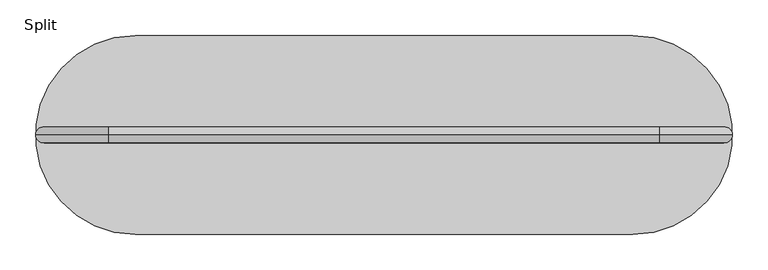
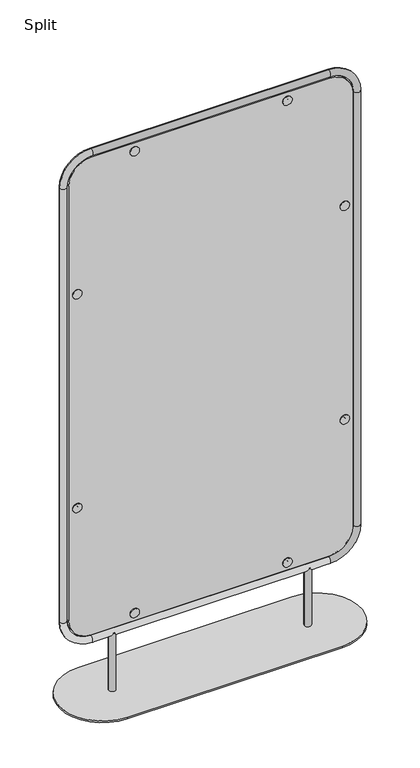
"""IFC4 building model written with IfcOpenShell, lengths in millimetres: furniture geometry, Acoustic-Panels_Slalom_Split_Metric : Split."""

from ifc_helpers import new_model, si_unit, point, frame, frame_2d, origin, origin_with_axes, place, context, project, spatial, polyline, circle_curve, ellipse_curve, trimmed, segment, composite_curve, outline, extrude, source, transform, mapped, element, save
from ifc_brep_helpers import plane_surface, cylinder_surface, revolved_surface, advanced_brep


def split_e62d9c19(model_context):
    return source(origin(), model_context, "Body", "SolidModel", [
        extrude(outline(composite_curve([segment(trimmed(circle_curve(frame_2d((1793.5437635, -389.0)), 74.0), [point((1867.5437635, -389.0))], [point((1793.5437635, -463.0))], False, "CARTESIAN"), True, "CONTINUOUS"), segment(polyline([(1793.5437635, -463.0), (295.5437635, -463.0)]), True, "CONTINUOUS"), segment(trimmed(circle_curve(frame_2d((295.5437635, -389.0)), 74.0), [point((295.5437635, -463.0))], [point((221.5437635, -389.0))], False, "CARTESIAN"), True, "CONTINUOUS"), segment(polyline([(221.5437635, -389.0), (221.5437635, 389.0)]), True, "CONTINUOUS"), segment(trimmed(circle_curve(frame_2d((295.5437635, 389.0)), 74.0), [point((221.5437635, 389.0))], [point((295.5437635, 463.0))], False, "CARTESIAN"), True, "CONTINUOUS"), segment(polyline([(295.5437635, 463.0), (1793.5437635, 463.0)]), True, "CONTINUOUS"), segment(trimmed(circle_curve(frame_2d((1793.5437635, 389.0)), 74.0), [point((1793.5437635, 463.0))], [point((1867.5437635, 389.0))], False, "CARTESIAN"), True, "CONTINUOUS"), segment(polyline([(1867.5437635, 389.0), (1867.5437635, -389.0)]), True, "CONTINUOUS")], self_intersect=False)), frame((0.0, -4.0, 0.0), z_axis=(0.0, 1.0, 0.0), x_axis=(0.0, 0.0, 1.0)), (0.0, 0.0, 1.0), 8.0),
        advanced_brep(
        [(-252.9999704, 4.0, 1840.7968129), (-244.9999704, 4.0, 1840.7968129), (-244.9999704, -4.0, 1840.7968129), (-252.9999704, -4.0, 1840.7968129), (-263.9999704, -7.0, 1840.7968129), (-233.9999704, -7.0, 1840.7968129), (-263.9999704, -4.0, 1840.7968129), (-233.9999704, -4.0, 1840.7968129)],
        [
            (0, 1, circle_curve(frame((-248.9999704, 4.0, 1840.7968129), z_axis=(0.0, 1.0, 0.0), x_axis=(1.0, 0.0, 0.0)), 4.0)),
            (1, 0, circle_curve(frame((-248.9999704, 4.0, 1840.7968129), z_axis=(0.0, 1.0, 0.0), x_axis=(1.0, 0.0, 0.0)), 4.0)),
            (1, 2),
            (2, 3, circle_curve(frame((-248.9999704, -4.0, 1840.7968129), z_axis=(0.0, 1.0, 0.0), x_axis=(1.0, 0.0, 0.0)), 4.0)),
            (3, 0),
            (3, 2, circle_curve(frame((-248.9999704, -4.0, 1840.7968129), z_axis=(0.0, 1.0, 0.0), x_axis=(1.0, 0.0, 0.0)), 4.0)),
            (4, 5, circle_curve(frame((-248.9999704, -7.0, 1840.7968129), z_axis=(0.0, -1.0, 0.0), x_axis=(1.0, 0.0, 0.0)), 15.0)),
            (5, 4, circle_curve(frame((-248.9999704, -7.0, 1840.7968129), z_axis=(0.0, -1.0, 0.0), x_axis=(1.0, 0.0, 0.0)), 15.0)),
            (6, 7, circle_curve(frame((-248.9999704, -4.0, 1840.7968129), z_axis=(0.0, 1.0, 0.0), x_axis=(1.0, 0.0, 0.0)), 15.0)),
            (7, 6, circle_curve(frame((-248.9999704, -4.0, 1840.7968129), z_axis=(0.0, 1.0, 0.0), x_axis=(1.0, 0.0, 0.0)), 15.0)),
            (4, 6),
            (7, 5),
        ],
        [
            plane_surface(frame((-244.9999704, 4.0, 1840.7968129), z_axis=(0.0, 1.0, 0.0), x_axis=(0.0, 0.0, -1.0))),
            cylinder_surface(frame((-248.9999704, 4.0, 1840.7968129), z_axis=(0.0, -1.0, 0.0), x_axis=(1.0, 0.0, 0.0)), 4.0),
            plane_surface(frame((-233.9999704, -7.0, 1840.7968129), z_axis=(0.0, -1.0, 0.0), x_axis=(0.0, 0.0, 1.0))),
            plane_surface(frame((-233.9999704, -4.0, 1840.7968129), z_axis=(0.0, 1.0, 0.0), x_axis=(0.0, 0.0, -1.0))),
            cylinder_surface(frame((-248.9999704, -4.0, 1840.7968129), z_axis=(0.0, -1.0, 0.0), x_axis=(1.0, 0.0, 0.0)), 15.0),
        ],
        [
            (0, [[1, 2]]),
            (1, [[-2, 3, 4, 5]]),
            (1, [[-1, -5, 6, -3]]),
            (2, [[7, 8]]),
            (3, [[9, 10], [-4, -6]]),
            (4, [[-7, 11, -10, 12]]),
            (4, [[-8, -12, -9, -11]]),
        ],
    ),
        advanced_brep(
        [(244.9999704, 4.0, 1840.7968129), (252.9999704, 4.0, 1840.7968129), (252.9999704, -4.0, 1840.7968129), (244.9999704, -4.0, 1840.7968129), (233.9999704, -7.0, 1840.7968129), (263.9999704, -7.0, 1840.7968129), (233.9999704, -4.0, 1840.7968129), (263.9999704, -4.0, 1840.7968129)],
        [
            (0, 1, circle_curve(frame((248.9999704, 4.0, 1840.7968129), z_axis=(0.0, 1.0, 0.0), x_axis=(1.0, 0.0, 0.0)), 4.0)),
            (1, 0, circle_curve(frame((248.9999704, 4.0, 1840.7968129), z_axis=(0.0, 1.0, 0.0), x_axis=(1.0, 0.0, 0.0)), 4.0)),
            (1, 2),
            (2, 3, circle_curve(frame((248.9999704, -4.0, 1840.7968129), z_axis=(0.0, 1.0, 0.0), x_axis=(1.0, 0.0, 0.0)), 4.0)),
            (3, 0),
            (3, 2, circle_curve(frame((248.9999704, -4.0, 1840.7968129), z_axis=(0.0, 1.0, 0.0), x_axis=(1.0, 0.0, 0.0)), 4.0)),
            (4, 5, circle_curve(frame((248.9999704, -7.0, 1840.7968129), z_axis=(0.0, -1.0, 0.0), x_axis=(1.0, 0.0, 0.0)), 15.0)),
            (5, 4, circle_curve(frame((248.9999704, -7.0, 1840.7968129), z_axis=(0.0, -1.0, 0.0), x_axis=(1.0, 0.0, 0.0)), 15.0)),
            (6, 7, circle_curve(frame((248.9999704, -4.0, 1840.7968129), z_axis=(0.0, 1.0, 0.0), x_axis=(1.0, 0.0, 0.0)), 15.0)),
            (7, 6, circle_curve(frame((248.9999704, -4.0, 1840.7968129), z_axis=(0.0, 1.0, 0.0), x_axis=(1.0, 0.0, 0.0)), 15.0)),
            (4, 6),
            (7, 5),
        ],
        [
            plane_surface(frame((-244.9999704, 4.0, 1840.7968129), z_axis=(0.0, 1.0, 0.0), x_axis=(0.0, 0.0, -1.0))),
            cylinder_surface(frame((248.9999704, 0.0, 1840.7968129), z_axis=(0.0, -1.0, 0.0), x_axis=(1.0, 0.0, 0.0)), 4.0),
            plane_surface(frame((-233.9999704, -7.0, 1840.7968129), z_axis=(0.0, -1.0, 0.0), x_axis=(0.0, 0.0, 1.0))),
            plane_surface(frame((-233.9999704, -4.0, 1840.7968129), z_axis=(0.0, 1.0, 0.0), x_axis=(0.0, 0.0, -1.0))),
            cylinder_surface(frame((248.9999704, 0.0, 1840.7968129), z_axis=(0.0, -1.0, 0.0), x_axis=(1.0, 0.0, 0.0)), 15.0),
        ],
        [
            (0, [[1, 2]]),
            (1, [[-2, 3, 4, 5]]),
            (1, [[-1, -5, 6, -3]]),
            (2, [[7, 8]]),
            (3, [[9, 10], [-4, -6]]),
            (4, [[-7, 11, -10, 12]]),
            (4, [[-8, -12, -9, -11]]),
        ],
    ),
        advanced_brep(
        [(-252.9999704, 4.0, 248.290714), (-244.9999704, 4.0, 248.290714), (-244.9999704, -4.0, 248.290714), (-252.9999704, -4.0, 248.290714), (-263.9999704, -7.0, 248.290714), (-233.9999704, -7.0, 248.290714), (-263.9999704, -4.0, 248.290714), (-233.9999704, -4.0, 248.290714)],
        [
            (0, 1, circle_curve(frame((-248.9999704, 4.0, 248.290714), z_axis=(0.0, 1.0, 0.0), x_axis=(1.0, 0.0, 0.0)), 4.0)),
            (1, 0, circle_curve(frame((-248.9999704, 4.0, 248.290714), z_axis=(0.0, 1.0, 0.0), x_axis=(1.0, 0.0, 0.0)), 4.0)),
            (1, 2),
            (2, 3, circle_curve(frame((-248.9999704, -4.0, 248.290714), z_axis=(0.0, 1.0, 0.0), x_axis=(1.0, 0.0, 0.0)), 4.0)),
            (3, 0),
            (3, 2, circle_curve(frame((-248.9999704, -4.0, 248.290714), z_axis=(0.0, 1.0, 0.0), x_axis=(1.0, 0.0, 0.0)), 4.0)),
            (4, 5, circle_curve(frame((-248.9999704, -7.0, 248.290714), z_axis=(0.0, -1.0, 0.0), x_axis=(1.0, 0.0, 0.0)), 15.0)),
            (5, 4, circle_curve(frame((-248.9999704, -7.0, 248.290714), z_axis=(0.0, -1.0, 0.0), x_axis=(1.0, 0.0, 0.0)), 15.0)),
            (6, 7, circle_curve(frame((-248.9999704, -4.0, 248.290714), z_axis=(0.0, 1.0, 0.0), x_axis=(1.0, 0.0, 0.0)), 15.0)),
            (7, 6, circle_curve(frame((-248.9999704, -4.0, 248.290714), z_axis=(0.0, 1.0, 0.0), x_axis=(1.0, 0.0, 0.0)), 15.0)),
            (4, 6),
            (7, 5),
        ],
        [
            plane_surface(frame((-244.9999704, 4.0, 1840.7968129), z_axis=(0.0, 1.0, 0.0), x_axis=(0.0, 0.0, -1.0))),
            cylinder_surface(frame((-248.9999704, 0.0, 248.290714), z_axis=(0.0, -1.0, 0.0), x_axis=(1.0, 0.0, 0.0)), 4.0),
            plane_surface(frame((-233.9999704, -7.0, 1840.7968129), z_axis=(0.0, -1.0, 0.0), x_axis=(0.0, 0.0, 1.0))),
            plane_surface(frame((-233.9999704, -4.0, 1840.7968129), z_axis=(0.0, 1.0, 0.0), x_axis=(0.0, 0.0, -1.0))),
            cylinder_surface(frame((-248.9999704, 0.0, 248.290714), z_axis=(0.0, -1.0, 0.0), x_axis=(1.0, 0.0, 0.0)), 15.0),
        ],
        [
            (0, [[1, 2]]),
            (1, [[-2, 3, 4, 5]]),
            (1, [[-1, -5, 6, -3]]),
            (2, [[7, 8]]),
            (3, [[9, 10], [-4, -6]]),
            (4, [[-7, 11, -10, 12]]),
            (4, [[-8, -12, -9, -11]]),
        ],
    ),
        advanced_brep(
        [(244.9999704, 4.0, 248.290714), (252.9999704, 4.0, 248.290714), (252.9999704, -4.0, 248.290714), (244.9999704, -4.0, 248.290714), (233.9999704, -7.0, 248.290714), (263.9999704, -7.0, 248.290714), (233.9999704, -4.0, 248.290714), (263.9999704, -4.0, 248.290714)],
        [
            (0, 1, circle_curve(frame((248.9999704, 4.0, 248.290714), z_axis=(0.0, 1.0, 0.0), x_axis=(1.0, 0.0, 0.0)), 4.0)),
            (1, 0, circle_curve(frame((248.9999704, 4.0, 248.290714), z_axis=(0.0, 1.0, 0.0), x_axis=(1.0, 0.0, 0.0)), 4.0)),
            (1, 2),
            (2, 3, circle_curve(frame((248.9999704, -4.0, 248.290714), z_axis=(0.0, 1.0, 0.0), x_axis=(1.0, 0.0, 0.0)), 4.0)),
            (3, 0),
            (3, 2, circle_curve(frame((248.9999704, -4.0, 248.290714), z_axis=(0.0, 1.0, 0.0), x_axis=(1.0, 0.0, 0.0)), 4.0)),
            (4, 5, circle_curve(frame((248.9999704, -7.0, 248.290714), z_axis=(0.0, -1.0, 0.0), x_axis=(1.0, 0.0, 0.0)), 15.0)),
            (5, 4, circle_curve(frame((248.9999704, -7.0, 248.290714), z_axis=(0.0, -1.0, 0.0), x_axis=(1.0, 0.0, 0.0)), 15.0)),
            (6, 7, circle_curve(frame((248.9999704, -4.0, 248.290714), z_axis=(0.0, 1.0, 0.0), x_axis=(1.0, 0.0, 0.0)), 15.0)),
            (7, 6, circle_curve(frame((248.9999704, -4.0, 248.290714), z_axis=(0.0, 1.0, 0.0), x_axis=(1.0, 0.0, 0.0)), 15.0)),
            (4, 6),
            (7, 5),
        ],
        [
            plane_surface(frame((-244.9999704, 4.0, 1840.7968129), z_axis=(0.0, 1.0, 0.0), x_axis=(0.0, 0.0, -1.0))),
            cylinder_surface(frame((248.9999704, 0.0, 248.290714), z_axis=(0.0, -1.0, 0.0), x_axis=(1.0, 0.0, 0.0)), 4.0),
            plane_surface(frame((-233.9999704, -7.0, 1840.7968129), z_axis=(0.0, -1.0, 0.0), x_axis=(0.0, 0.0, 1.0))),
            plane_surface(frame((-233.9999704, -4.0, 1840.7968129), z_axis=(0.0, 1.0, 0.0), x_axis=(0.0, 0.0, -1.0))),
            cylinder_surface(frame((248.9999704, 0.0, 248.290714), z_axis=(0.0, -1.0, 0.0), x_axis=(1.0, 0.0, 0.0)), 15.0),
        ],
        [
            (0, [[1, 2]]),
            (1, [[-2, 3, 4, 5]]),
            (1, [[-1, -5, 6, -3]]),
            (2, [[7, 8]]),
            (3, [[9, 10], [-4, -6]]),
            (4, [[-7, 11, -10, 12]]),
            (4, [[-8, -12, -9, -11]]),
        ],
    ),
        advanced_brep(
        [(-440.2530495, 4.0, 1413.0755278), (-432.2530495, 4.0, 1413.0755278), (-432.2530495, -4.0, 1413.0755278), (-440.2530495, -4.0, 1413.0755278), (-451.2530495, -7.0, 1413.0755278), (-421.2530495, -7.0, 1413.0755278), (-451.2530495, -4.0, 1413.0755278), (-421.2530495, -4.0, 1413.0755278)],
        [
            (0, 1, circle_curve(frame((-436.2530495, 4.0, 1413.0755278), z_axis=(0.0, 1.0, 0.0), x_axis=(1.0, 0.0, 0.0)), 4.0)),
            (1, 0, circle_curve(frame((-436.2530495, 4.0, 1413.0755278), z_axis=(0.0, 1.0, 0.0), x_axis=(1.0, 0.0, 0.0)), 4.0)),
            (1, 2),
            (2, 3, circle_curve(frame((-436.2530495, -4.0, 1413.0755278), z_axis=(0.0, 1.0, 0.0), x_axis=(1.0, 0.0, 0.0)), 4.0)),
            (3, 0),
            (3, 2, circle_curve(frame((-436.2530495, -4.0, 1413.0755278), z_axis=(0.0, 1.0, 0.0), x_axis=(1.0, 0.0, 0.0)), 4.0)),
            (4, 5, circle_curve(frame((-436.2530495, -7.0, 1413.0755278), z_axis=(0.0, -1.0, 0.0), x_axis=(1.0, 0.0, 0.0)), 15.0)),
            (5, 4, circle_curve(frame((-436.2530495, -7.0, 1413.0755278), z_axis=(0.0, -1.0, 0.0), x_axis=(1.0, 0.0, 0.0)), 15.0)),
            (6, 7, circle_curve(frame((-436.2530495, -4.0, 1413.0755278), z_axis=(0.0, 1.0, 0.0), x_axis=(1.0, 0.0, 0.0)), 15.0)),
            (7, 6, circle_curve(frame((-436.2530495, -4.0, 1413.0755278), z_axis=(0.0, 1.0, 0.0), x_axis=(1.0, 0.0, 0.0)), 15.0)),
            (4, 6),
            (7, 5),
        ],
        [
            plane_surface(frame((-244.9999704, 4.0, 1840.7968129), z_axis=(0.0, 1.0, 0.0), x_axis=(0.0, 0.0, -1.0))),
            cylinder_surface(frame((-436.2530495, 0.0, 1413.0755278), z_axis=(0.0, -1.0, 0.0), x_axis=(1.0, 0.0, 0.0)), 4.0),
            plane_surface(frame((-233.9999704, -7.0, 1840.7968129), z_axis=(0.0, -1.0, 0.0), x_axis=(0.0, 0.0, 1.0))),
            plane_surface(frame((-233.9999704, -4.0, 1840.7968129), z_axis=(0.0, 1.0, 0.0), x_axis=(0.0, 0.0, -1.0))),
            cylinder_surface(frame((-436.2530495, 0.0, 1413.0755278), z_axis=(0.0, -1.0, 0.0), x_axis=(1.0, 0.0, 0.0)), 15.0),
        ],
        [
            (0, [[1, 2]]),
            (1, [[-2, 3, 4, 5]]),
            (1, [[-1, -5, 6, -3]]),
            (2, [[7, 8]]),
            (3, [[9, 10], [-4, -6]]),
            (4, [[-7, 11, -10, 12]]),
            (4, [[-8, -12, -9, -11]]),
        ],
    ),
        advanced_brep(
        [(-440.2530495, 4.0, 676.0119991), (-432.2530495, 4.0, 676.0119991), (-432.2530495, -4.0, 676.0119991), (-440.2530495, -4.0, 676.0119991), (-451.2530495, -7.0, 676.0119991), (-421.2530495, -7.0, 676.0119991), (-451.2530495, -4.0, 676.0119991), (-421.2530495, -4.0, 676.0119991)],
        [
            (0, 1, circle_curve(frame((-436.2530495, 4.0, 676.0119991), z_axis=(0.0, 1.0, 0.0), x_axis=(1.0, 0.0, 0.0)), 4.0)),
            (1, 0, circle_curve(frame((-436.2530495, 4.0, 676.0119991), z_axis=(0.0, 1.0, 0.0), x_axis=(1.0, 0.0, 0.0)), 4.0)),
            (1, 2),
            (2, 3, circle_curve(frame((-436.2530495, -4.0, 676.0119991), z_axis=(0.0, 1.0, 0.0), x_axis=(1.0, 0.0, 0.0)), 4.0)),
            (3, 0),
            (3, 2, circle_curve(frame((-436.2530495, -4.0, 676.0119991), z_axis=(0.0, 1.0, 0.0), x_axis=(1.0, 0.0, 0.0)), 4.0)),
            (4, 5, circle_curve(frame((-436.2530495, -7.0, 676.0119991), z_axis=(0.0, -1.0, 0.0), x_axis=(1.0, 0.0, 0.0)), 15.0)),
            (5, 4, circle_curve(frame((-436.2530495, -7.0, 676.0119991), z_axis=(0.0, -1.0, 0.0), x_axis=(1.0, 0.0, 0.0)), 15.0)),
            (6, 7, circle_curve(frame((-436.2530495, -4.0, 676.0119991), z_axis=(0.0, 1.0, 0.0), x_axis=(1.0, 0.0, 0.0)), 15.0)),
            (7, 6, circle_curve(frame((-436.2530495, -4.0, 676.0119991), z_axis=(0.0, 1.0, 0.0), x_axis=(1.0, 0.0, 0.0)), 15.0)),
            (4, 6),
            (7, 5),
        ],
        [
            plane_surface(frame((-244.9999704, 4.0, 1840.7968129), z_axis=(0.0, 1.0, 0.0), x_axis=(0.0, 0.0, -1.0))),
            cylinder_surface(frame((-436.2530495, 0.0, 676.0119991), z_axis=(0.0, -1.0, 0.0), x_axis=(1.0, 0.0, 0.0)), 4.0),
            plane_surface(frame((-233.9999704, -7.0, 1840.7968129), z_axis=(0.0, -1.0, 0.0), x_axis=(0.0, 0.0, 1.0))),
            plane_surface(frame((-233.9999704, -4.0, 1840.7968129), z_axis=(0.0, 1.0, 0.0), x_axis=(0.0, 0.0, -1.0))),
            cylinder_surface(frame((-436.2530495, 0.0, 676.0119991), z_axis=(0.0, -1.0, 0.0), x_axis=(1.0, 0.0, 0.0)), 15.0),
        ],
        [
            (0, [[1, 2]]),
            (1, [[-2, 3, 4, 5]]),
            (1, [[-1, -5, 6, -3]]),
            (2, [[7, 8]]),
            (3, [[9, 10], [-4, -6]]),
            (4, [[-7, 11, -10, 12]]),
            (4, [[-8, -12, -9, -11]]),
        ],
    ),
        advanced_brep(
        [(432.2530495, 4.0, 1413.0755278), (440.2530495, 4.0, 1413.0755278), (440.2530495, -4.0, 1413.0755278), (432.2530495, -4.0, 1413.0755278), (421.2530495, -7.0, 1413.0755278), (451.2530495, -7.0, 1413.0755278), (421.2530495, -4.0, 1413.0755278), (451.2530495, -4.0, 1413.0755278)],
        [
            (0, 1, circle_curve(frame((436.2530495, 4.0, 1413.0755278), z_axis=(0.0, 1.0, 0.0), x_axis=(1.0, 0.0, 0.0)), 4.0)),
            (1, 0, circle_curve(frame((436.2530495, 4.0, 1413.0755278), z_axis=(0.0, 1.0, 0.0), x_axis=(1.0, 0.0, 0.0)), 4.0)),
            (1, 2),
            (2, 3, circle_curve(frame((436.2530495, -4.0, 1413.0755278), z_axis=(0.0, 1.0, 0.0), x_axis=(1.0, 0.0, 0.0)), 4.0)),
            (3, 0),
            (3, 2, circle_curve(frame((436.2530495, -4.0, 1413.0755278), z_axis=(0.0, 1.0, 0.0), x_axis=(1.0, 0.0, 0.0)), 4.0)),
            (4, 5, circle_curve(frame((436.2530495, -7.0, 1413.0755278), z_axis=(0.0, -1.0, 0.0), x_axis=(1.0, 0.0, 0.0)), 15.0)),
            (5, 4, circle_curve(frame((436.2530495, -7.0, 1413.0755278), z_axis=(0.0, -1.0, 0.0), x_axis=(1.0, 0.0, 0.0)), 15.0)),
            (6, 7, circle_curve(frame((436.2530495, -4.0, 1413.0755278), z_axis=(0.0, 1.0, 0.0), x_axis=(1.0, 0.0, 0.0)), 15.0)),
            (7, 6, circle_curve(frame((436.2530495, -4.0, 1413.0755278), z_axis=(0.0, 1.0, 0.0), x_axis=(1.0, 0.0, 0.0)), 15.0)),
            (4, 6),
            (7, 5),
        ],
        [
            plane_surface(frame((-244.9999704, 4.0, 1840.7968129), z_axis=(0.0, 1.0, 0.0), x_axis=(0.0, 0.0, -1.0))),
            cylinder_surface(frame((436.2530495, 0.0, 1413.0755278), z_axis=(0.0, -1.0, 0.0), x_axis=(1.0, 0.0, 0.0)), 4.0),
            plane_surface(frame((-233.9999704, -7.0, 1840.7968129), z_axis=(0.0, -1.0, 0.0), x_axis=(0.0, 0.0, 1.0))),
            plane_surface(frame((-233.9999704, -4.0, 1840.7968129), z_axis=(0.0, 1.0, 0.0), x_axis=(0.0, 0.0, -1.0))),
            cylinder_surface(frame((436.2530495, 0.0, 1413.0755278), z_axis=(0.0, -1.0, 0.0), x_axis=(1.0, 0.0, 0.0)), 15.0),
        ],
        [
            (0, [[1, 2]]),
            (1, [[-2, 3, 4, 5]]),
            (1, [[-1, -5, 6, -3]]),
            (2, [[7, 8]]),
            (3, [[9, 10], [-4, -6]]),
            (4, [[-7, 11, -10, 12]]),
            (4, [[-8, -12, -9, -11]]),
        ],
    ),
        advanced_brep(
        [(432.2530495, 4.0, 676.0119991), (440.2530495, 4.0, 676.0119991), (440.2530495, -4.0, 676.0119991), (432.2530495, -4.0, 676.0119991), (421.2530495, -7.0, 676.0119991), (451.2530495, -7.0, 676.0119991), (421.2530495, -4.0, 676.0119991), (451.2530495, -4.0, 676.0119991)],
        [
            (0, 1, circle_curve(frame((436.2530495, 4.0, 676.0119991), z_axis=(0.0, 1.0, 0.0), x_axis=(1.0, 0.0, 0.0)), 4.0)),
            (1, 0, circle_curve(frame((436.2530495, 4.0, 676.0119991), z_axis=(0.0, 1.0, 0.0), x_axis=(1.0, 0.0, 0.0)), 4.0)),
            (1, 2),
            (2, 3, circle_curve(frame((436.2530495, -4.0, 676.0119991), z_axis=(0.0, 1.0, 0.0), x_axis=(1.0, 0.0, 0.0)), 4.0)),
            (3, 0),
            (3, 2, circle_curve(frame((436.2530495, -4.0, 676.0119991), z_axis=(0.0, 1.0, 0.0), x_axis=(1.0, 0.0, 0.0)), 4.0)),
            (4, 5, circle_curve(frame((436.2530495, -7.0, 676.0119991), z_axis=(0.0, -1.0, 0.0), x_axis=(1.0, 0.0, 0.0)), 15.0)),
            (5, 4, circle_curve(frame((436.2530495, -7.0, 676.0119991), z_axis=(0.0, -1.0, 0.0), x_axis=(1.0, 0.0, 0.0)), 15.0)),
            (6, 7, circle_curve(frame((436.2530495, -4.0, 676.0119991), z_axis=(0.0, 1.0, 0.0), x_axis=(1.0, 0.0, 0.0)), 15.0)),
            (7, 6, circle_curve(frame((436.2530495, -4.0, 676.0119991), z_axis=(0.0, 1.0, 0.0), x_axis=(1.0, 0.0, 0.0)), 15.0)),
            (4, 6),
            (7, 5),
        ],
        [
            plane_surface(frame((-244.9999704, 4.0, 1840.7968129), z_axis=(0.0, 1.0, 0.0), x_axis=(0.0, 0.0, -1.0))),
            cylinder_surface(frame((436.2530495, 0.0, 676.0119991), z_axis=(0.0, -1.0, 0.0), x_axis=(1.0, 0.0, 0.0)), 4.0),
            plane_surface(frame((-233.9999704, -7.0, 1840.7968129), z_axis=(0.0, -1.0, 0.0), x_axis=(0.0, 0.0, 1.0))),
            plane_surface(frame((-233.9999704, -4.0, 1840.7968129), z_axis=(0.0, 1.0, 0.0), x_axis=(0.0, 0.0, -1.0))),
            cylinder_surface(frame((436.2530495, 0.0, 676.0119991), z_axis=(0.0, -1.0, 0.0), x_axis=(1.0, 0.0, 0.0)), 15.0),
        ],
        [
            (0, [[1, 2]]),
            (1, [[-2, 3, 4, 5]]),
            (1, [[-1, -5, 6, -3]]),
            (2, [[7, 8]]),
            (3, [[9, 10], [-4, -6]]),
            (4, [[-7, 11, -10, 12]]),
            (4, [[-8, -12, -9, -11]]),
        ],
    ),
        extrude(outline(composite_curve([segment(polyline([(1875.9939125, -233.9999704), (1875.9939125, -263.9999704), (1840.7968129, -263.9999704)]), True, "CONTINUOUS"), segment(trimmed(circle_curve(frame_2d((1840.7968129, -248.9999704)), 15.0), [point((1840.7968129, -263.9999704))], [point((1840.7968129, -233.9999704))], False, "CARTESIAN"), True, "CONTINUOUS"), segment(polyline([(1840.7968129, -233.9999704), (1875.9939125, -233.9999704)]), True, "CONTINUOUS")], self_intersect=False)), frame((0.0, 4.0, 0.0), z_axis=(0.0, 1.0, 0.0), x_axis=(0.0, 0.0, 1.0)), (0.0, 0.0, 1.0), 4.0),
        extrude(outline(composite_curve([segment(polyline([(1875.9939125, 233.9999704), (1840.7968129, 233.9999704)]), True, "CONTINUOUS"), segment(trimmed(circle_curve(frame_2d((1840.7968129, 248.9999704)), 15.0), [point((1840.7968129, 233.9999704))], [point((1840.7968129, 263.9999704))], False, "CARTESIAN"), True, "CONTINUOUS"), segment(polyline([(1840.7968129, 263.9999704), (1875.9939125, 263.9999704), (1875.9939125, 233.9999704)]), True, "CONTINUOUS")], self_intersect=False)), frame((0.0, 4.0, 0.0), z_axis=(0.0, 1.0, 0.0), x_axis=(0.0, 0.0, 1.0)), (0.0, 0.0, 1.0), 4.0),
        extrude(outline(composite_curve([segment(polyline([(213.0936144, -233.9999704), (248.290714, -233.9999704)]), True, "CONTINUOUS"), segment(trimmed(circle_curve(frame_2d((248.290714, -248.9999704)), 15.0), [point((248.290714, -233.9999704))], [point((248.290714, -263.9999704))], False, "CARTESIAN"), True, "CONTINUOUS"), segment(polyline([(248.290714, -263.9999704), (213.0936144, -263.9999704), (213.0936144, -233.9999704)]), True, "CONTINUOUS")], self_intersect=False)), frame((0.0, 4.0, 0.0), z_axis=(0.0, 1.0, 0.0), x_axis=(0.0, 0.0, 1.0)), (0.0, 0.0, 1.0), 4.0),
        extrude(outline(composite_curve([segment(polyline([(213.0936144, 233.9999704), (213.0936144, 263.9999704), (248.290714, 263.9999704)]), True, "CONTINUOUS"), segment(trimmed(circle_curve(frame_2d((248.290714, 248.9999704)), 15.0), [point((248.290714, 263.9999704))], [point((248.290714, 233.9999704))], False, "CARTESIAN"), True, "CONTINUOUS"), segment(polyline([(248.290714, 233.9999704), (213.0936144, 233.9999704)]), True, "CONTINUOUS")], self_intersect=False)), frame((0.0, 4.0, 0.0), z_axis=(0.0, 1.0, 0.0), x_axis=(0.0, 0.0, 1.0)), (0.0, 0.0, 1.0), 4.0),
        extrude(outline(composite_curve([segment(polyline([(1398.0755278, -471.4501491), (1398.0755278, -436.2530495)]), True, "CONTINUOUS"), segment(trimmed(circle_curve(frame_2d((1413.0755278, -436.2530495)), 15.0), [point((1398.0755278, -436.2530495))], [point((1428.0755278, -436.2530495))], False, "CARTESIAN"), True, "CONTINUOUS"), segment(polyline([(1428.0755278, -436.2530495), (1428.0755278, -471.4501491), (1398.0755278, -471.4501491)]), True, "CONTINUOUS")], self_intersect=False)), frame((0.0, 4.0, 0.0), z_axis=(0.0, 1.0, 0.0), x_axis=(0.0, 0.0, 1.0)), (0.0, 0.0, 1.0), 4.0),
        extrude(outline(composite_curve([segment(polyline([(661.0119991, -471.4501491), (661.0119991, -436.2530495)]), True, "CONTINUOUS"), segment(trimmed(circle_curve(frame_2d((676.0119991, -436.2530495)), 15.0), [point((661.0119991, -436.2530495))], [point((691.0119991, -436.2530495))], False, "CARTESIAN"), True, "CONTINUOUS"), segment(polyline([(691.0119991, -436.2530495), (691.0119991, -471.4501491), (661.0119991, -471.4501491)]), True, "CONTINUOUS")], self_intersect=False)), frame((0.0, 4.0, 0.0), z_axis=(0.0, 1.0, 0.0), x_axis=(0.0, 0.0, 1.0)), (0.0, 0.0, 1.0), 4.0),
        extrude(outline(composite_curve([segment(polyline([(1398.0755278, 471.4501491), (1428.0755278, 471.4501491), (1428.0755278, 436.2530495)]), True, "CONTINUOUS"), segment(trimmed(circle_curve(frame_2d((1413.0755278, 436.2530495)), 15.0), [point((1428.0755278, 436.2530495))], [point((1398.0755278, 436.2530495))], False, "CARTESIAN"), True, "CONTINUOUS"), segment(polyline([(1398.0755278, 436.2530495), (1398.0755278, 471.4501491)]), True, "CONTINUOUS")], self_intersect=False)), frame((0.0, 4.0, 0.0), z_axis=(0.0, 1.0, 0.0), x_axis=(0.0, 0.0, 1.0)), (0.0, 0.0, 1.0), 4.0),
        extrude(outline(composite_curve([segment(polyline([(661.0119991, 471.4501491), (691.0119991, 471.4501491), (691.0119991, 436.2530495)]), True, "CONTINUOUS"), segment(trimmed(circle_curve(frame_2d((676.0119991, 436.2530495)), 15.0), [point((691.0119991, 436.2530495))], [point((661.0119991, 436.2530495))], False, "CARTESIAN"), True, "CONTINUOUS"), segment(polyline([(661.0119991, 436.2530495), (661.0119991, 471.4501491)]), True, "CONTINUOUS")], self_intersect=False)), frame((0.0, 4.0, 0.0), z_axis=(0.0, 1.0, 0.0), x_axis=(0.0, 0.0, 1.0)), (0.0, 0.0, 1.0), 4.0),
        advanced_brep(
        [(-320.9194195, -10.8312432, 207.463183), (-317.0805805, -10.8312432, 207.463183), (-317.0805805, 10.8312432, 207.463183), (-320.9194195, 10.8312432, 207.463183), (317.0805805, -10.8312432, 207.463183), (320.9194195, -10.8312432, 207.463183), (320.9194195, 10.8312432, 207.463183), (317.0805805, 10.8312432, 207.463183), (-330.0, 0.0, 6.0), (-308.0, 0.0, 6.0), (308.0, 0.0, 6.0), (330.0, 0.0, 6.0), (-319.0, -11.0, 205.5437635), (-308.0, 0.0, 194.5437635), (-330.0, 0.0, 194.5437635), (-319.0, 11.0, 205.5437635), (319.0, -11.0, 205.5437635), (330.0, 0.0, 194.5437635), (308.0, 0.0, 194.5437635), (319.0, 11.0, 205.5437635), (490.0, 0.0, 1792.5437635), (388.0, 0.0, 1894.5437635), (388.0, 0.0, 1872.5437635), (468.0, 0.0, 1792.5437635), (468.0, 0.0, 296.5437635), (490.0, 0.0, 296.5437635), (388.0, 0.0, 216.5437635), (388.0, 0.0, 194.5437635), (-388.0, 0.0, 216.5437635), (-388.0, 0.0, 194.5437635), (-468.0, 0.0, 296.5437635), (-490.0, 0.0, 296.5437635), (-468.0, 0.0, 1792.5437635), (-490.0, 0.0, 1792.5437635), (-388.0, 0.0, 1872.5437635), (-388.0, 0.0, 1894.5437635)],
        [
            (0, 1, circle_curve(frame((-319.0, 0.0, 207.463183), z_axis=(0.0, 0.0, 1.0), x_axis=(1.0, 0.0, 0.0)), 11.0)),
            (1, 0),
            (2, 3, circle_curve(frame((-319.0, 0.0, 207.463183), z_axis=(0.0, 0.0, 1.0), x_axis=(1.0, 0.0, 0.0)), 11.0)),
            (3, 2),
            (4, 5, circle_curve(frame((319.0, 0.0, 207.463183), z_axis=(0.0, 0.0, 1.0), x_axis=(1.0, 0.0, 0.0)), 11.0)),
            (5, 4),
            (6, 7, circle_curve(frame((319.0, 0.0, 207.463183), z_axis=(0.0, 0.0, 1.0), x_axis=(1.0, 0.0, 0.0)), 11.0)),
            (7, 6),
            (8, 9, circle_curve(frame((-319.0, 0.0, 6.0), z_axis=(0.0, 0.0, -1.0), x_axis=(1.0, 0.0, 0.0)), 11.0)),
            (9, 8, circle_curve(frame((-319.0, 0.0, 6.0), z_axis=(0.0, 0.0, -1.0), x_axis=(1.0, 0.0, 0.0)), 11.0)),
            (10, 11, circle_curve(frame((319.0, 0.0, 6.0), z_axis=(0.0, 0.0, -1.0), x_axis=(1.0, 0.0, 0.0)), 11.0)),
            (11, 10, circle_curve(frame((319.0, 0.0, 6.0), z_axis=(0.0, 0.0, -1.0), x_axis=(1.0, 0.0, 0.0)), 11.0)),
            (0, 12, ellipse_curve(frame((-319.0, 0.0, 205.5437635), z_axis=(0.7071067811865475, 0.0, 0.7071067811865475), x_axis=(-0.7071067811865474, 0.0, 0.7071067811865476)), 15.5563492, 11.0)),
            (12, 1, ellipse_curve(frame((-319.0, 0.0, 205.5437635), z_axis=(-0.7071067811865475, 0.0, 0.7071067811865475), x_axis=(0.7071067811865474, 0.0, 0.7071067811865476)), 15.5563492, 11.0)),
            (9, 13),
            (13, 12, ellipse_curve(frame((-319.0, 0.0, 205.5437635), z_axis=(-0.7071067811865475, 0.0, -0.7071067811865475), x_axis=(-0.7071067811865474, 0.0, 0.7071067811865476)), 15.5563492, 11.0)),
            (12, 14, ellipse_curve(frame((-319.0, 0.0, 205.5437635), z_axis=(0.7071067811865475, 0.0, -0.7071067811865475), x_axis=(0.7071067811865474, 0.0, 0.7071067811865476)), 15.5563492, 11.0)),
            (14, 8),
            (2, 15, ellipse_curve(frame((-319.0, 0.0, 205.5437635), z_axis=(-0.7071067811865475, 0.0, 0.7071067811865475), x_axis=(0.7071067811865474, 0.0, 0.7071067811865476)), 15.5563492, 11.0)),
            (15, 3, ellipse_curve(frame((-319.0, 0.0, 205.5437635), z_axis=(0.7071067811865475, 0.0, 0.7071067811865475), x_axis=(-0.7071067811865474, 0.0, 0.7071067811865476)), 15.5563492, 11.0)),
            (14, 15, ellipse_curve(frame((-319.0, 0.0, 205.5437635), z_axis=(0.7071067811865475, 0.0, -0.7071067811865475), x_axis=(0.7071067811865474, 0.0, 0.7071067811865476)), 15.5563492, 11.0)),
            (15, 13, ellipse_curve(frame((-319.0, 0.0, 205.5437635), z_axis=(-0.7071067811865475, 0.0, -0.7071067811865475), x_axis=(-0.7071067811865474, 0.0, 0.7071067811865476)), 15.5563492, 11.0)),
            (4, 16, ellipse_curve(frame((319.0, 0.0, 205.5437635), z_axis=(0.7071067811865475, 0.0, 0.7071067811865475), x_axis=(-0.7071067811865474, 0.0, 0.7071067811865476)), 15.5563492, 11.0)),
            (16, 5, ellipse_curve(frame((319.0, 0.0, 205.5437635), z_axis=(-0.7071067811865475, 0.0, 0.7071067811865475), x_axis=(0.7071067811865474, 0.0, 0.7071067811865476)), 15.5563492, 11.0)),
            (11, 17),
            (17, 16, ellipse_curve(frame((319.0, 0.0, 205.5437635), z_axis=(-0.7071067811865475, 0.0, -0.7071067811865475), x_axis=(-0.7071067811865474, 0.0, 0.7071067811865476)), 15.5563492, 11.0)),
            (16, 18, ellipse_curve(frame((319.0, 0.0, 205.5437635), z_axis=(0.7071067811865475, 0.0, -0.7071067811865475), x_axis=(0.7071067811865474, 0.0, 0.7071067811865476)), 15.5563492, 11.0)),
            (18, 10),
            (6, 19, ellipse_curve(frame((319.0, 0.0, 205.5437635), z_axis=(-0.7071067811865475, 0.0, 0.7071067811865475), x_axis=(0.7071067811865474, 0.0, 0.7071067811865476)), 15.5563492, 11.0)),
            (19, 7, ellipse_curve(frame((319.0, 0.0, 205.5437635), z_axis=(0.7071067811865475, 0.0, 0.7071067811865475), x_axis=(-0.7071067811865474, 0.0, 0.7071067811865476)), 15.5563492, 11.0)),
            (18, 19, ellipse_curve(frame((319.0, 0.0, 205.5437635), z_axis=(0.7071067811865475, 0.0, -0.7071067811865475), x_axis=(0.7071067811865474, 0.0, 0.7071067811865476)), 15.5563492, 11.0)),
            (19, 17, ellipse_curve(frame((319.0, 0.0, 205.5437635), z_axis=(-0.7071067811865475, 0.0, -0.7071067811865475), x_axis=(-0.7071067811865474, 0.0, 0.7071067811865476)), 15.5563492, 11.0)),
            (20, 21, circle_curve(frame((388.0, 0.0, 1792.5437635), z_axis=(0.0, -1.0, 0.0), x_axis=(0.0, 0.0, 1.0)), 102.0)),
            (21, 22, circle_curve(frame((388.0, 0.0, 1883.5437635), z_axis=(1.0, 0.0, 0.0), x_axis=(0.0, 0.0, 1.0)), 11.0)),
            (22, 23, circle_curve(frame((388.0, 0.0, 1792.5437635), z_axis=(0.0, 1.0, 0.0), x_axis=(0.0, 0.0, 1.0)), 80.0)),
            (23, 20, circle_curve(frame((479.0, 0.0, 1792.5437635), z_axis=(0.0, 0.0, 1.0), x_axis=(1.0, 0.0, 0.0)), 11.0)),
            (20, 23, circle_curve(frame((479.0, 0.0, 1792.5437635), z_axis=(0.0, 0.0, 1.0), x_axis=(1.0, 0.0, 0.0)), 11.0)),
            (22, 21, circle_curve(frame((388.0, 0.0, 1883.5437635), z_axis=(1.0, 0.0, 0.0), x_axis=(0.0, 0.0, 1.0)), 11.0)),
            (23, 24),
            (24, 25, circle_curve(frame((479.0, 0.0, 296.5437635), z_axis=(0.0, 0.0, 1.0), x_axis=(1.0, 0.0, 0.0)), 11.0)),
            (25, 20),
            (25, 24, circle_curve(frame((479.0, 0.0, 296.5437635), z_axis=(0.0, 0.0, 1.0), x_axis=(1.0, 0.0, 0.0)), 11.0)),
            (24, 26, circle_curve(frame((388.0, 0.0, 296.5437635), z_axis=(0.0, 1.0, 0.0), x_axis=(1.0, 0.0, 0.0)), 80.0)),
            (26, 27, circle_curve(frame((388.0, 0.0, 205.5437635), z_axis=(1.0, 0.0, 0.0), x_axis=(0.0, 0.0, -1.0)), 11.0)),
            (27, 25, circle_curve(frame((388.0, 0.0, 296.5437635), z_axis=(0.0, -1.0, 0.0), x_axis=(1.0, 0.0, 0.0)), 102.0)),
            (27, 26, circle_curve(frame((388.0, 0.0, 205.5437635), z_axis=(1.0, 0.0, 0.0), x_axis=(0.0, 0.0, -1.0)), 11.0)),
            (26, 28),
            (28, 29, circle_curve(frame((-388.0, 0.0, 205.5437635), z_axis=(1.0, 0.0, 0.0), x_axis=(0.0, 0.0, -1.0)), 11.0)),
            (29, 14),
            (13, 18),
            (17, 27),
            (29, 28, circle_curve(frame((-388.0, 0.0, 205.5437635), z_axis=(1.0, 0.0, 0.0), x_axis=(0.0, 0.0, -1.0)), 11.0)),
            (28, 30, circle_curve(frame((-388.0, 0.0, 296.5437635), z_axis=(0.0, 1.0, 0.0), x_axis=(0.0, 0.0, -1.0)), 80.0)),
            (30, 31, circle_curve(frame((-479.0, 0.0, 296.5437635), z_axis=(0.0, 0.0, -1.0), x_axis=(-1.0, 0.0, 0.0)), 11.0)),
            (31, 29, circle_curve(frame((-388.0, 0.0, 296.5437635), z_axis=(0.0, -1.0, 0.0), x_axis=(0.0, 0.0, -1.0)), 102.0)),
            (31, 30, circle_curve(frame((-479.0, 0.0, 296.5437635), z_axis=(0.0, 0.0, -1.0), x_axis=(-1.0, 0.0, 0.0)), 11.0)),
            (30, 32),
            (32, 33, circle_curve(frame((-479.0, 0.0, 1792.5437635), z_axis=(0.0, 0.0, -1.0), x_axis=(-1.0, 0.0, 0.0)), 11.0)),
            (33, 31),
            (33, 32, circle_curve(frame((-479.0, 0.0, 1792.5437635), z_axis=(0.0, 0.0, -1.0), x_axis=(-1.0, 0.0, 0.0)), 11.0)),
            (32, 34, circle_curve(frame((-388.0, 0.0, 1792.5437635), z_axis=(0.0, 1.0, 0.0), x_axis=(-1.0, 0.0, 0.0)), 80.0)),
            (34, 35, circle_curve(frame((-388.0, 0.0, 1883.5437635), z_axis=(-1.0, 0.0, 0.0), x_axis=(0.0, 0.0, 1.0)), 11.0)),
            (35, 33, circle_curve(frame((-388.0, 0.0, 1792.5437635), z_axis=(0.0, -1.0, 0.0), x_axis=(-1.0, 0.0, 0.0)), 102.0)),
            (35, 34, circle_curve(frame((-388.0, 0.0, 1883.5437635), z_axis=(-1.0, 0.0, 0.0), x_axis=(0.0, 0.0, 1.0)), 11.0)),
            (21, 35),
            (34, 22),
        ],
        [
            plane_surface(frame((-308.0, 0.0, 207.463183), z_axis=(0.0, 0.0, 1.0), x_axis=(0.0, 1.0, 0.0))),
            plane_surface(frame((-308.0, 0.0, 6.0), z_axis=(0.0, 0.0, -1.0), x_axis=(0.0, -1.0, 0.0))),
            cylinder_surface(frame((-319.0, 0.0, 6.0), z_axis=(0.0, 0.0, 1.0), x_axis=(1.0, 0.0, 0.0)), 11.0),
            cylinder_surface(frame((319.0, 0.0, 0.0), z_axis=(0.0, 0.0, 1.0), x_axis=(1.0, 0.0, 0.0)), 11.0),
            revolved_surface(trimmed(ellipse_curve(frame((388.0, 0.0, 1883.5437635), z_axis=(-1.0, 0.0, 0.0), x_axis=(0.0, 0.0, 1.0)), 11.0, 11.0), [point((388.0, 0.0, 1872.5437635))], [point((388.0, 0.0, 1894.5437635))], True, "CARTESIAN"), (388.0, 0.0, 1792.5437635), (0.0, 1.0, 0.0)),
            revolved_surface(trimmed(ellipse_curve(frame((388.0, 0.0, 1883.5437635), z_axis=(-1.0, 0.0, 0.0), x_axis=(0.0, 0.0, 1.0)), 11.0, 11.0), [point((388.0, 0.0, 1894.5437635))], [point((388.0, 0.0, 1872.5437635))], True, "CARTESIAN"), (388.0, 0.0, 1792.5437635), (0.0, 1.0, 0.0)),
            cylinder_surface(frame((479.0, 0.0, 1792.5437635), z_axis=(0.0, 0.0, 1.0), x_axis=(1.0, 0.0, 0.0)), 11.0),
            revolved_surface(trimmed(ellipse_curve(frame((479.0, 0.0, 296.5437635), z_axis=(0.0, 0.0, 1.0), x_axis=(1.0, 0.0, 0.0)), 11.0, 11.0), [point((468.0, 0.0, 296.5437635))], [point((490.0, 0.0, 296.5437635))], True, "CARTESIAN"), (388.0, 0.0, 296.5437635), (0.0, 1.0, 0.0)),
            revolved_surface(trimmed(ellipse_curve(frame((479.0, 0.0, 296.5437635), z_axis=(0.0, 0.0, 1.0), x_axis=(1.0, 0.0, 0.0)), 11.0, 11.0), [point((490.0, 0.0, 296.5437635))], [point((468.0, 0.0, 296.5437635))], True, "CARTESIAN"), (388.0, 0.0, 296.5437635), (0.0, 1.0, 0.0)),
            cylinder_surface(frame((388.0, 0.0, 205.5437635), z_axis=(1.0, 0.0, 0.0), x_axis=(0.0, 0.0, -1.0)), 11.0),
            revolved_surface(trimmed(ellipse_curve(frame((-388.0, 0.0, 205.5437635), z_axis=(1.0, 0.0, 0.0), x_axis=(0.0, 0.0, -1.0)), 11.0, 11.0), [point((-388.0, 0.0, 216.5437635))], [point((-388.0, 0.0, 194.5437635))], True, "CARTESIAN"), (-388.0, 0.0, 296.5437635), (0.0, 1.0, 0.0)),
            revolved_surface(trimmed(ellipse_curve(frame((-388.0, 0.0, 205.5437635), z_axis=(1.0, 0.0, 0.0), x_axis=(0.0, 0.0, -1.0)), 11.0, 11.0), [point((-388.0, 0.0, 194.5437635))], [point((-388.0, 0.0, 216.5437635))], True, "CARTESIAN"), (-388.0, 0.0, 296.5437635), (0.0, 1.0, 0.0)),
            cylinder_surface(frame((-479.0, 0.0, 296.5437635), z_axis=(0.0, 0.0, -1.0), x_axis=(-1.0, 0.0, 0.0)), 11.0),
            revolved_surface(trimmed(ellipse_curve(frame((-479.0, 0.0, 1792.5437635), z_axis=(0.0, 0.0, -1.0), x_axis=(-1.0, 0.0, 0.0)), 11.0, 11.0), [point((-468.0, 0.0, 1792.5437635))], [point((-490.0, 0.0, 1792.5437635))], True, "CARTESIAN"), (-388.0, 0.0, 1792.5437635), (0.0, 1.0, 0.0)),
            revolved_surface(trimmed(ellipse_curve(frame((-479.0, 0.0, 1792.5437635), z_axis=(0.0, 0.0, -1.0), x_axis=(-1.0, 0.0, 0.0)), 11.0, 11.0), [point((-490.0, 0.0, 1792.5437635))], [point((-468.0, 0.0, 1792.5437635))], True, "CARTESIAN"), (-388.0, 0.0, 1792.5437635), (0.0, 1.0, 0.0)),
            cylinder_surface(frame((-388.0, 0.0, 1883.5437635), z_axis=(-1.0, 0.0, 0.0), x_axis=(0.0, 0.0, 1.0)), 11.0),
        ],
        [
            (0, [[1, 2]]),
            (0, [[3, 4]]),
            (0, [[5, 6]]),
            (0, [[7, 8]]),
            (1, [[9, 10]]),
            (1, [[11, 12]]),
            (2, [[-1, 13, 14]]),
            (2, [[-10, 15, 16, 17, 18]]),
            (2, [[-3, 19, 20]]),
            (2, [[-9, -18, 21, 22, -15]]),
            (3, [[-5, 23, 24]]),
            (3, [[-12, 25, 26, 27, 28]]),
            (3, [[-7, 29, 30]]),
            (3, [[-11, -28, 31, 32, -25]]),
            (4, [[33, 34, 35, 36]]),
            (5, [[-33, 37, -35, 38]]),
            (6, [[-36, 39, 40, 41]]),
            (6, [[-37, -41, 42, -39]]),
            (7, [[-40, 43, 44, 45]]),
            (8, [[-42, -45, 46, -43]]),
            (9, [[-44, 47, 48, 49, -17, -13, -2, -14, -16, 50, -27, -23, -6, -24, -26, 51]]),
            (9, [[-46, -51, -32, -29, -8, -30, -31, -50, -22, -19, -4, -20, -21, -49, 52, -47]]),
            (10, [[-48, 53, 54, 55]]),
            (11, [[-52, -55, 56, -53]]),
            (12, [[-54, 57, 58, 59]]),
            (12, [[-56, -59, 60, -57]]),
            (13, [[-58, 61, 62, 63]]),
            (14, [[-60, -63, 64, -61]]),
            (15, [[-34, 65, -62, 66]]),
            (15, [[-38, -66, -64, -65]]),
        ],
    ),
        extrude(outline(composite_curve([segment(polyline([(-350.0, 140.0), (350.0, 140.0)]), True, "CONTINUOUS"), segment(trimmed(circle_curve(frame_2d((350.0, 0.0)), 140.0), [point((350.0, 140.0))], [point((350.0, -140.0))], False, "CARTESIAN"), True, "CONTINUOUS"), segment(polyline([(350.0, -140.0), (-350.0, -140.0)]), True, "CONTINUOUS"), segment(trimmed(circle_curve(frame_2d((-350.0, 0.0)), 140.0), [point((-350.0, -140.0))], [point((-350.0, 140.0))], False, "CARTESIAN"), True, "CONTINUOUS")], self_intersect=False)), origin_with_axes(), (0.0, 0.0, 1.0), 6.0),
    ])


if __name__ == "__main__":
    model = new_model("IFC4")
    model_context = context("Model", 3, world=origin())
    ifc_project = project(units=[si_unit("LENGTHUNIT", "METRE", prefix="MILLI")], contexts=[model_context])
    site = spatial("IfcSite", under=ifc_project)
    building = spatial("IfcBuilding", under=site)
    placement = place(None, origin())
    split_shape = split_e62d9c19(model_context)
    element("IfcFurniture", 1, ObjectType="Acoustic-Panels_Slalom_Split_Metric : Split", at=placement, inside=building, context=model_context, shape_type="MappedRepresentation", body=[
        mapped(split_shape, transform((0.0, 0.0, 0.0), x_axis=(1.0, 0.0, 0.0), y_axis=(0.0, 1.0, 0.0), z_axis=(0.0, 0.0, 1.0))),
    ])
    save(model, "model.ifc")
